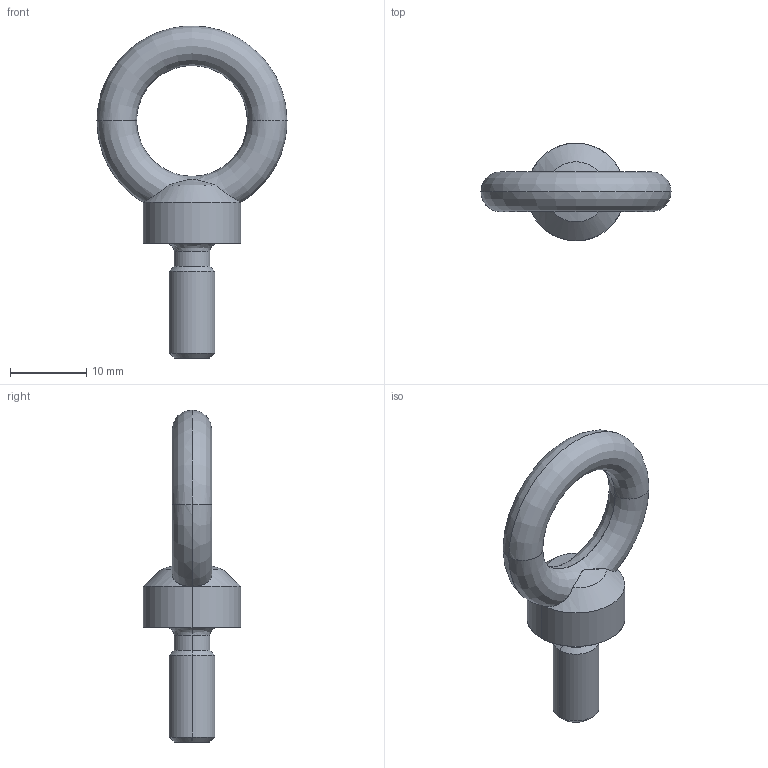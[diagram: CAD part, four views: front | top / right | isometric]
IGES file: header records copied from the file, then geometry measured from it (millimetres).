
Global section: file name: E:\UnigraphicsGraphicData\MISUMI_PRESS-PARTS\IGES\3d_chi6_03535_r00.igs; native system: NX V5.0; preprocessor: UGS NX IGES V5.0; author: MISUMI; date: 20110105.160219; units: millimetre
Bounding box: 24.9 x 12.8 x 43.49 mm (x, y, z)
Surface area: 1606.7 mm2 (no closed solid volume)
Topology: 0 solids, 0 shells, 22 faces, 126 edges, 126 vertices
Faces by surface type: bspline 22
